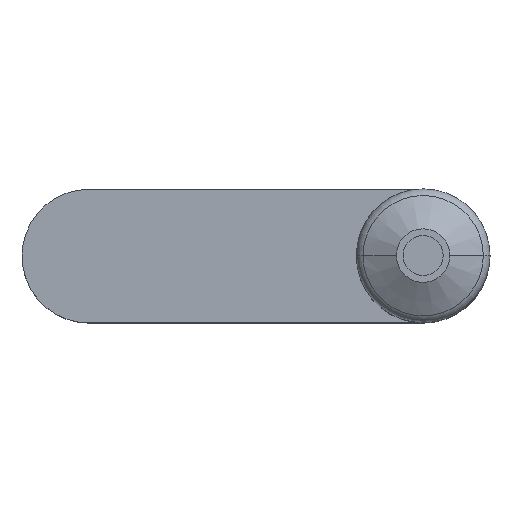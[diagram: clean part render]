
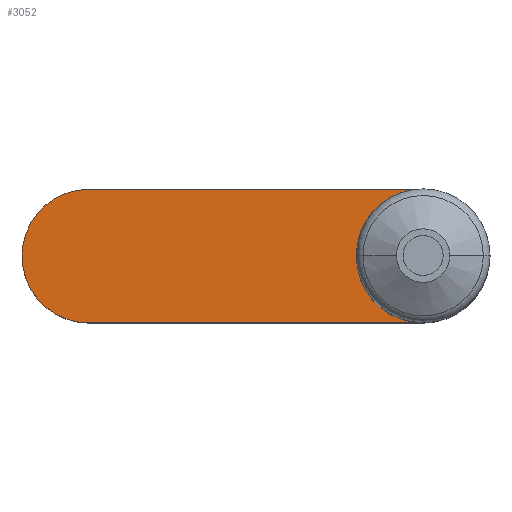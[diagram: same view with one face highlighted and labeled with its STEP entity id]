
A CAD part, top view. The second image highlights one B-rep face of the part: STEP entity #3052.
In plain terms, the highlighted planar face has unit normal (0, 0, 1).
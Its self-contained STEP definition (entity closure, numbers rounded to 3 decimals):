
#853 = EDGE_CURVE ( 'NONE', #2142, #6101, #2230, .T. ) ;
#861 = AXIS2_PLACEMENT_3D ( 'NONE', #2482, #7156, #3321 ) ;
#883 = ORIENTED_EDGE ( 'NONE', *, *, #853, .T. ) ;
#913 = VERTEX_POINT ( 'NONE', #5950 ) ;
#1060 = ORIENTED_EDGE ( 'NONE', *, *, #1560, .T. ) ;
#1266 = ORIENTED_EDGE ( 'NONE', *, *, #4761, .T. ) ;
#1560 = EDGE_CURVE ( 'NONE', #6101, #913, #5115, .T. ) ;
#1805 = CIRCLE ( 'NONE', #861, 10. ) ;
#2142 = VERTEX_POINT ( 'NONE', #7071 ) ;
#2178 = VECTOR ( 'NONE', #4048, 1000. ) ;
#2230 = LINE ( 'NONE', #8862, #9656 ) ;
#2234 = VERTEX_POINT ( 'NONE', #2467 ) ;
#2467 = CARTESIAN_POINT ( 'NONE',  ( 0., -10., 27. ) ) ;
#2482 = CARTESIAN_POINT ( 'NONE',  ( 0., 0., 27. ) ) ;
#3052 = ADVANCED_FACE ( 'NONE', ( #6288 ), #4283, .F. ) ;
#3321 = DIRECTION ( 'NONE',  ( 0., -1., 0. ) ) ;
#3324 = ORIENTED_EDGE ( 'NONE', *, *, #5811, .T. ) ;
#3376 = DIRECTION ( 'NONE',  ( 0., 0., -1. ) ) ;
#3766 = CARTESIAN_POINT ( 'NONE',  ( -50., 0., 27. ) ) ;
#4048 = DIRECTION ( 'NONE',  ( 1., 0., 0. ) ) ;
#4243 = DIRECTION ( 'NONE',  ( 0., -1., 0. ) ) ;
#4283 = PLANE ( 'NONE',  #7764 ) ;
#4761 = EDGE_CURVE ( 'NONE', #2234, #2142, #1805, .T. ) ;
#5115 = CIRCLE ( 'NONE', #9346, 10. ) ;
#5205 = DIRECTION ( 'NONE',  ( 0., 0., 1. ) ) ;
#5811 = EDGE_CURVE ( 'NONE', #913, #2234, #5912, .T. ) ;
#5912 = LINE ( 'NONE', #7870, #2178 ) ;
#5950 = CARTESIAN_POINT ( 'NONE',  ( -50., -10., 27. ) ) ;
#6101 = VERTEX_POINT ( 'NONE', #6106 ) ;
#6106 = CARTESIAN_POINT ( 'NONE',  ( -50., 10., 27. ) ) ;
#6288 = FACE_OUTER_BOUND ( 'NONE', #9322, .T. ) ;
#7071 = CARTESIAN_POINT ( 'NONE',  ( 0., 10., 27. ) ) ;
#7156 = DIRECTION ( 'NONE',  ( 0., 0., -1. ) ) ;
#7764 = AXIS2_PLACEMENT_3D ( 'NONE', #8847, #3376, #4243 ) ;
#7870 = CARTESIAN_POINT ( 'NONE',  ( -50., -10., 27. ) ) ;
#8279 = DIRECTION ( 'NONE',  ( 0., -1., 0. ) ) ;
#8847 = CARTESIAN_POINT ( 'NONE',  ( -50., 0., 27. ) ) ;
#8862 = CARTESIAN_POINT ( 'NONE',  ( -50., 10., 27. ) ) ;
#9322 = EDGE_LOOP ( 'NONE', ( #3324, #1266, #883, #1060 ) ) ;
#9346 = AXIS2_PLACEMENT_3D ( 'NONE', #3766, #5205, #8279 ) ;
#9656 = VECTOR ( 'NONE', #9688, 1000. ) ;
#9688 = DIRECTION ( 'NONE',  ( -1., 0., 0. ) ) ;
